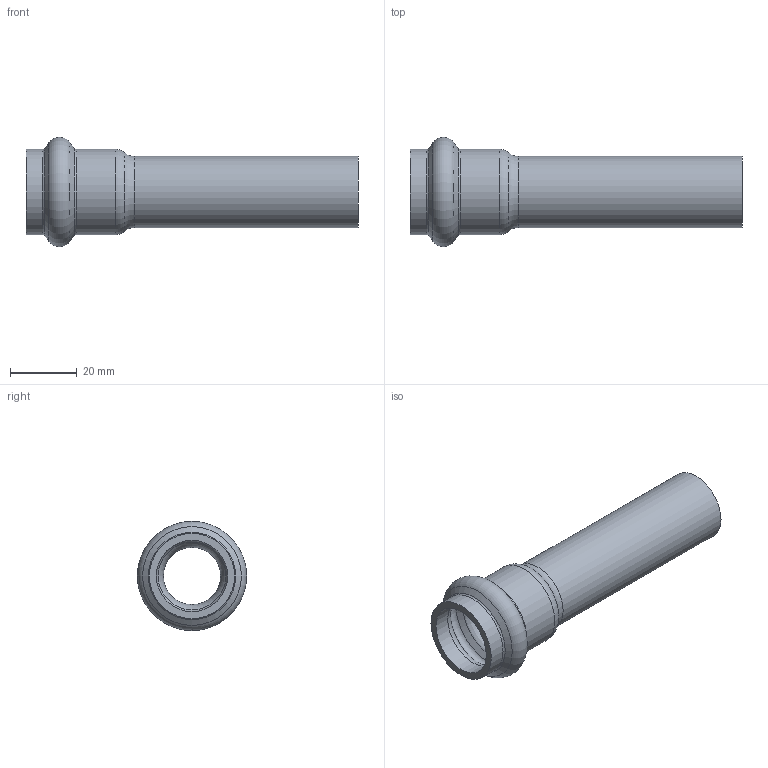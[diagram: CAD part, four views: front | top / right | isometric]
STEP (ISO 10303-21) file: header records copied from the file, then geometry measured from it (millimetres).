
FILE_DESCRIPTION(/* description */ ('VIC WELD ADAPTER STYLE P561 (P X T)','CAx-IF Rec.Pracs.---Representation and Presentation of Product Manufacturing Information (PMI)---4.0---2014-10-13'),/* implementation_level */ '2;1');
FILE_NAME(/* name */ 'C:\Users\Vjadhav\AppData\Roaming\Autodesk\ApplicationPlugins\Back Up\Victaulic_SS-Vic-Press-TP 304_Adapter Weld_Style P561 (VPxPE)\Victaulic_SS-Vic-Press-TP 304_Adapter Weld_Style P561 (VPxPE)_0.5 (15).stp',/* time_stamp */ '2020-08-12T15:21:19+06:00',/* author */ ('cgray'),/* organization */ ('Victaulic'),/* preprocessor_version */ 'ST-DEVELOPER v17.2',/* originating_system */ 'Autodesk Inventor 2019',/* authorisation */ '');
FILE_SCHEMA (('AP242_MANAGED_MODEL_BASED_3D_ENGINEERING_MIM_LF { 1 0 10303 442 1 1 4 }'));
Length unit declared in the file: inch
Products named in the file (1): P561-0.5
Bounding box: 99.57 x 32.79 x 32.79 mm (x, y, z)
Volume: 14369 mm3; surface area: 13914.1 mm2
Topology: 1 solids, 1 shells, 22 faces, 80 edges, 60 vertices
Faces by surface type: torus 10, cylinder 6, cone 4, plane 2
Full cylindrical faces by diameter (mm): 17.12 x1, 21.336 x3, 25.552 x2
Entity records: 1092 total; most frequent: DIRECTION 222, CARTESIAN_POINT 180, ORIENTED_EDGE 160, AXIS2_PLACEMENT_3D 106, EDGE_CURVE 80, CIRCLE 70, VERTEX_POINT 60, EDGE_LOOP 24
